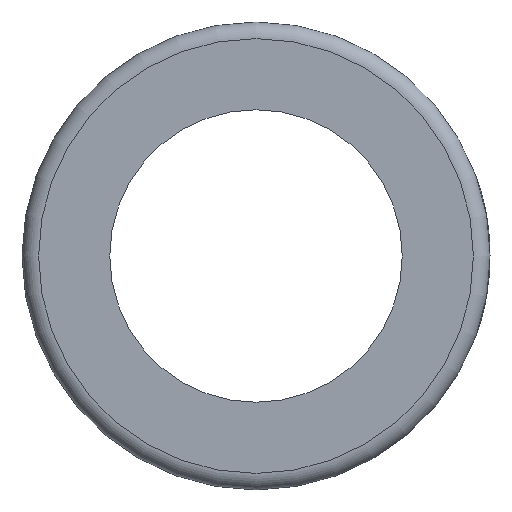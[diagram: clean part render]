
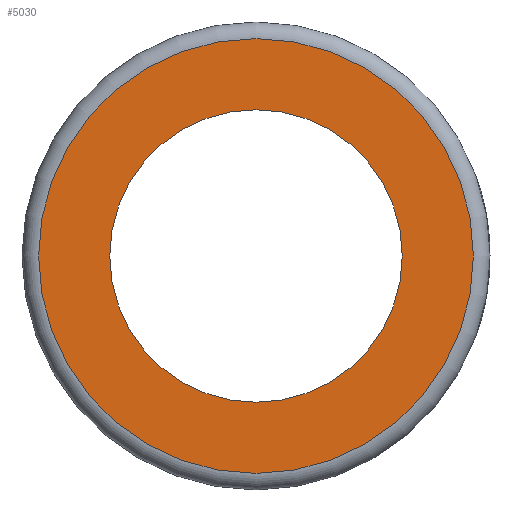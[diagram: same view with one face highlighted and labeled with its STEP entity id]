
A CAD part, left-side view. The second image highlights one B-rep face of the part: STEP entity #5030.
In plain terms, the highlighted planar face has unit normal (-1, 0, 0).
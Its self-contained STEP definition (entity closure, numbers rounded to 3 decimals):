
#120=PLANE('',#5423);
#346=CIRCLE('',#5424,23.6);
#347=CIRCLE('',#5425,15.875);
#1481=ORIENTED_EDGE('',*,*,#2993,.T.);
#1482=ORIENTED_EDGE('',*,*,#2994,.T.);
#2993=EDGE_CURVE('',#3749,#3749,#346,.F.);
#2994=EDGE_CURVE('',#3750,#3750,#347,.T.);
#3749=VERTEX_POINT('',#7997);
#3750=VERTEX_POINT('',#7999);
#4267=EDGE_LOOP('',(#1481));
#4268=EDGE_LOOP('',(#1482));
#4642=FACE_BOUND('',#4267,.T.);
#4643=FACE_BOUND('',#4268,.T.);
#5030=ADVANCED_FACE('',(#4642,#4643),#120,.F.);
#5423=AXIS2_PLACEMENT_3D('',#7995,#5941,#5942);
#5424=AXIS2_PLACEMENT_3D('',#7996,#5943,#5944);
#5425=AXIS2_PLACEMENT_3D('',#7998,#5945,#5946);
#5941=DIRECTION('',(1.,0.,0.));
#5942=DIRECTION('',(0.,0.,-1.));
#5943=DIRECTION('',(1.,0.,0.));
#5944=DIRECTION('',(0.,0.,-1.));
#5945=DIRECTION('',(1.,0.,0.));
#5946=DIRECTION('',(0.,0.,-1.));
#7995=CARTESIAN_POINT('',(-33.338,0.,0.));
#7996=CARTESIAN_POINT('',(-33.338,0.,0.));
#7997=CARTESIAN_POINT('',(-33.338,0.,-23.6));
#7998=CARTESIAN_POINT('',(-33.338,0.,0.));
#7999=CARTESIAN_POINT('',(-33.338,0.,-15.875));
